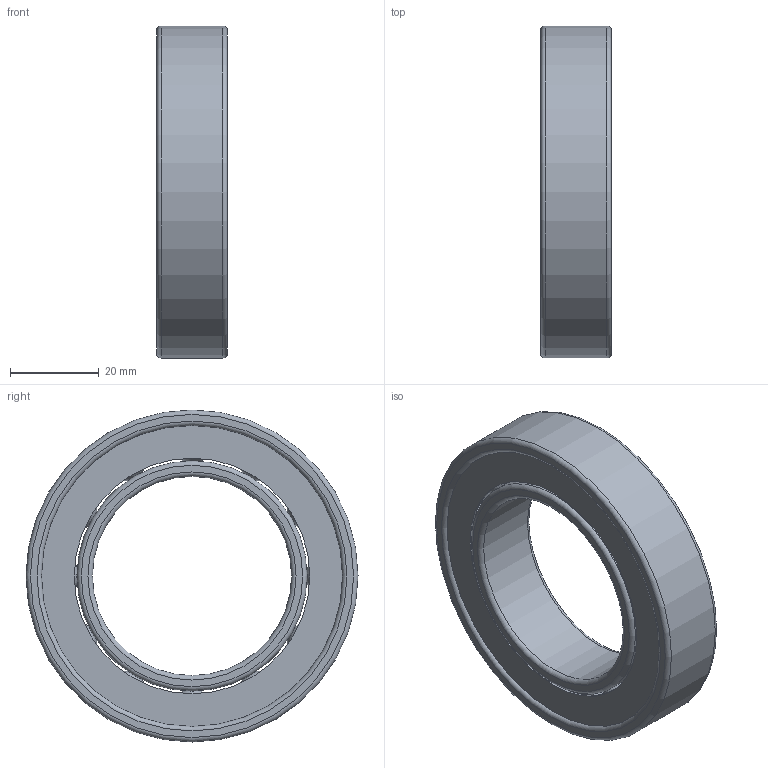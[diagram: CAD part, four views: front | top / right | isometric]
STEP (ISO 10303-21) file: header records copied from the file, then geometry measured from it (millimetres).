
FILE_DESCRIPTION(('Open CASCADE Model'),'2;1');
FILE_NAME('Open CASCADE Shape Model','2026-10-28T08:35:32',('Author'),( 'Open CASCADE'),'Open CASCADE STEP processor 7.9','Open CASCADE 7.9' ,'Unknown');
FILE_SCHEMA(('AUTOMOTIVE_DESIGN { 1 0 10303 214 1 1 1 1 }'));
Length unit declared in the file: millimetre
Products named in the file (17): Open CASCADE STEP translator 7.9 3; Open CASCADE STEP translator 7.9 3.1; Open CASCADE STEP translator 7.9 3.2; Open CASCADE STEP translator 7.9 3.3; Open CASCADE STEP translator 7.9 3.4; Open CASCADE STEP translator 7.9 3.5; Open CASCADE STEP translator 7.9 3.6; Open CASCADE STEP translator 7.9 3.7; Open CASCADE STEP translator 7.9 3.8; Open CASCADE STEP translator 7.9 3.9; Open CASCADE STEP translator 7.9 3.10; Open CASCADE STEP translator 7.9 3.11; Open CASCADE STEP translator 7.9 3.12; Open CASCADE STEP translator 7.9 3.13; Open CASCADE STEP translator 7.9 3.14; Open CASCADE STEP translator 7.9 3.15; Open CASCADE STEP translator 7.9 3.16
Assembly tree (16 placements, depth 2):
  Open CASCADE STEP translator 7.9 3
    Open CASCADE STEP translator 7.9 3.1
    Open CASCADE STEP translator 7.9 3.2
    Open CASCADE STEP translator 7.9 3.3
    Open CASCADE STEP translator 7.9 3.4
    Open CASCADE STEP translator 7.9 3.5
    Open CASCADE STEP translator 7.9 3.6
    Open CASCADE STEP translator 7.9 3.7
    Open CASCADE STEP translator 7.9 3.8
    Open CASCADE STEP translator 7.9 3.9
    Open CASCADE STEP translator 7.9 3.10
    Open CASCADE STEP translator 7.9 3.11
    Open CASCADE STEP translator 7.9 3.12
    Open CASCADE STEP translator 7.9 3.13
    Open CASCADE STEP translator 7.9 3.14
    Open CASCADE STEP translator 7.9 3.15
    Open CASCADE STEP translator 7.9 3.16
Bounding box: 16 x 75 x 75 mm (x, y, z)
Volume: 26364.4 mm3; surface area: 23279.8 mm2
Topology: 16 solids, 16 shells, 41 faces, 90 edges, 57 vertices
Faces by surface type: sphere 12, torus 11, cylinder 10, plane 8
Full cylindrical faces by diameter (mm): 45 x1, 52 x2, 53.2 x2, 68 x4, 75 x1
Entity records: 2282 total; most frequent: CARTESIAN_POINT 713, DIRECTION 290, ORIENTED_EDGE 108, PCURVE 108, DEFINITIONAL_REPRESENTATION 108, AXIS2_PLACEMENT_3D 98, LINE 78, VECTOR 78
